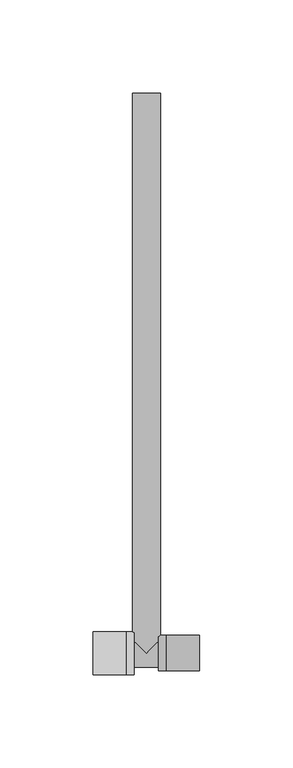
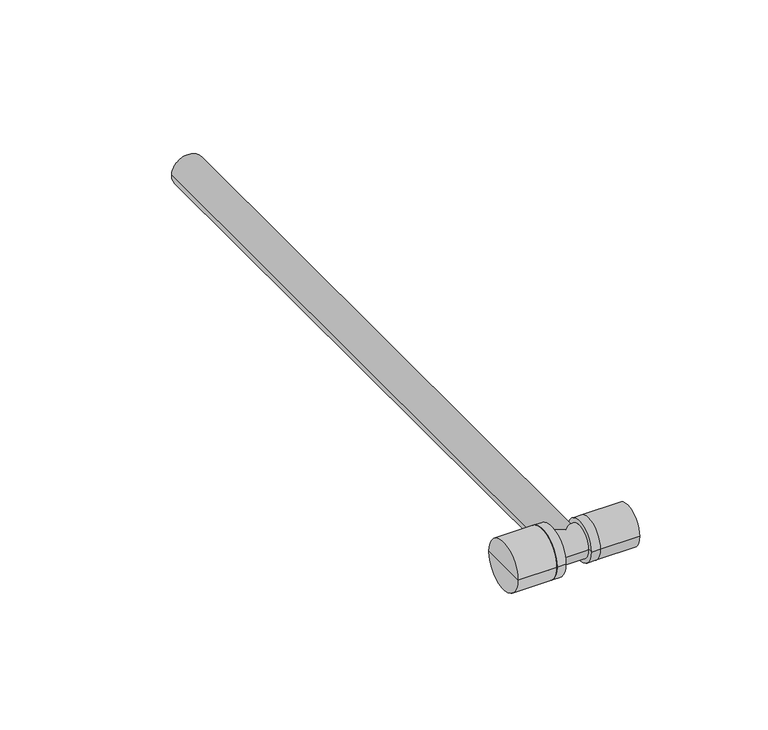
"""IFC4 building model written with IfcOpenShell, lengths in millimetres: pipe fitting geometry, KAN-therm Push 18x2 trójnik redukcyjny z rurą Cu15 L=300 : KAN-therm Push 18x2 trójnik redukcyjny z rurą Cu15 L=300."""

from ifc_helpers import new_model, si_unit, frame, origin, place, context, project, spatial, circle_curve, ellipse_curve, source, transform, mapped, element, save
from ifc_brep_helpers import plane_surface, cylinder_surface, advanced_brep


def pipe_fitting_55ffaf2d(model_context):
    return source(origin(), model_context, "Body", "AdvancedBrep", [
        advanced_brep(
        [(-10.5, -11.5, 0.0), (-10.5, 0.0, 0.0), (-10.5, 11.5, 0.0), (-6.5, -11.5, 0.0), (-6.5, 11.5, 0.0), (-6.5, 0.0, 0.0)],
        [
            (0, 1),
            (1, 2),
            (2, 0, circle_curve(frame((-10.5, 0.0, 0.0), z_axis=(-1.0, 0.0, 0.0), x_axis=(0.0, 1.0, 0.0)), 11.5)),
            (0, 2, circle_curve(frame((-10.5, 0.0, 0.0), z_axis=(-1.0, 0.0, 0.0), x_axis=(0.0, 1.0, 0.0)), 11.5)),
            (3, 0),
            (2, 4),
            (4, 3, circle_curve(frame((-6.5, 0.0, 0.0), z_axis=(-1.0, 0.0, 0.0), x_axis=(0.0, 1.0, 0.0)), 11.5)),
            (3, 4, circle_curve(frame((-6.5, 0.0, 0.0), z_axis=(-1.0, 0.0, 0.0), x_axis=(0.0, 1.0, 0.0)), 11.5)),
            (5, 3),
            (4, 5),
        ],
        [
            plane_surface(frame((-10.5, 0.0, 0.0), z_axis=(-1.0, 0.0, 0.0), x_axis=(0.0, 1.0, 0.0))),
            cylinder_surface(frame((-2005.5, 0.0, 0.0), z_axis=(1.0, 0.0, 0.0), x_axis=(0.0, 1.0, 0.0)), 11.5),
            plane_surface(frame((-6.5, 0.0, 0.0), z_axis=(1.0, 0.0, 0.0), x_axis=(0.0, 1.0, 0.0))),
        ],
        [
            (0, [[1, 2, 3]]),
            (0, [[-2, -1, 4]]),
            (1, [[5, -3, 6, 7]]),
            (1, [[-6, -4, -5, 8]]),
            (2, [[9, -7, 10]]),
            (2, [[-10, -8, -9]]),
        ],
    ),
        advanced_brep(
        [(-28.5, -11.5, 0.0), (-28.5, 0.0, 0.0), (-28.5, 11.5, 0.0), (-10.5, -11.5, 0.0), (-10.5, 11.5, 0.0), (-10.5, 0.0, 0.0)],
        [
            (0, 1),
            (1, 2),
            (2, 0, circle_curve(frame((-28.5, 0.0, 0.0), z_axis=(-1.0, 0.0, 0.0), x_axis=(0.0, 1.0, 0.0)), 11.5)),
            (0, 2, circle_curve(frame((-28.5, 0.0, 0.0), z_axis=(-1.0, 0.0, 0.0), x_axis=(0.0, 1.0, 0.0)), 11.5)),
            (3, 0),
            (2, 4),
            (4, 3, circle_curve(frame((-10.5, 0.0, 0.0), z_axis=(-1.0, 0.0, 0.0), x_axis=(0.0, 1.0, 0.0)), 11.5)),
            (3, 4, circle_curve(frame((-10.5, 0.0, 0.0), z_axis=(-1.0, 0.0, 0.0), x_axis=(0.0, 1.0, 0.0)), 11.5)),
            (5, 3),
            (4, 5),
        ],
        [
            plane_surface(frame((-28.5, 0.0, 0.0), z_axis=(-1.0, 0.0, 0.0), x_axis=(0.0, 1.0, 0.0))),
            cylinder_surface(frame((-2005.5, 0.0, 0.0), z_axis=(1.0, 0.0, 0.0), x_axis=(0.0, 1.0, 0.0)), 11.5),
            plane_surface(frame((-10.5, 0.0, 0.0), z_axis=(1.0, 0.0, 0.0), x_axis=(0.0, 1.0, 0.0))),
        ],
        [
            (0, [[1, 2, 3]]),
            (0, [[-2, -1, 4]]),
            (1, [[5, -3, 6, 7]]),
            (1, [[-6, -4, -5, 8]]),
            (2, [[9, -7, 10]]),
            (2, [[-10, -8, -9]]),
        ],
    ),
        advanced_brep(
        [(10.5, -9.5, 0.0), (10.5, 9.5, 0.0), (10.5, 0.0, 0.0), (6.5, -9.5, 0.0), (6.5, 9.5, 0.0), (6.5, 0.0, 0.0)],
        [
            (0, 1, circle_curve(frame((10.5, 0.0, 0.0), z_axis=(1.0, 0.0, 0.0), x_axis=(0.0, 1.0, 0.0)), 9.5)),
            (1, 2),
            (2, 0),
            (1, 0, circle_curve(frame((10.5, 0.0, 0.0), z_axis=(1.0, 0.0, 0.0), x_axis=(0.0, 1.0, 0.0)), 9.5)),
            (3, 4, circle_curve(frame((6.5, 0.0, 0.0), z_axis=(1.0, 0.0, 0.0), x_axis=(0.0, 1.0, 0.0)), 9.5)),
            (4, 1),
            (0, 3),
            (4, 3, circle_curve(frame((6.5, 0.0, 0.0), z_axis=(1.0, 0.0, 0.0), x_axis=(0.0, 1.0, 0.0)), 9.5)),
            (5, 4),
            (3, 5),
        ],
        [
            plane_surface(frame((10.5, 0.0, 0.0), z_axis=(1.0, 0.0, 0.0), x_axis=(0.0, 1.0, 0.0))),
            cylinder_surface(frame((2005.5, 0.0, 0.0), z_axis=(-1.0, 0.0, 0.0), x_axis=(0.0, 1.0, 0.0)), 9.5),
            plane_surface(frame((6.5, 0.0, 0.0), z_axis=(-1.0, 0.0, 0.0), x_axis=(0.0, 1.0, 0.0))),
        ],
        [
            (0, [[1, 2, 3]]),
            (0, [[4, -3, -2]]),
            (1, [[5, 6, -1, 7]]),
            (1, [[8, -7, -4, -6]]),
            (2, [[9, -5, 10]]),
            (2, [[-10, -8, -9]]),
        ],
    ),
        advanced_brep(
        [(28.5, -9.5, 0.0), (28.5, 9.5, 0.0), (28.5, 0.0, 0.0), (10.5, -9.5, 0.0), (10.5, 9.5, 0.0), (10.5, 0.0, 0.0)],
        [
            (0, 1, circle_curve(frame((28.5, 0.0, 0.0), z_axis=(1.0, 0.0, 0.0), x_axis=(0.0, 1.0, 0.0)), 9.5)),
            (1, 2),
            (2, 0),
            (1, 0, circle_curve(frame((28.5, 0.0, 0.0), z_axis=(1.0, 0.0, 0.0), x_axis=(0.0, 1.0, 0.0)), 9.5)),
            (3, 4, circle_curve(frame((10.5, 0.0, 0.0), z_axis=(1.0, 0.0, 0.0), x_axis=(0.0, 1.0, 0.0)), 9.5)),
            (4, 1),
            (0, 3),
            (4, 3, circle_curve(frame((10.5, 0.0, 0.0), z_axis=(1.0, 0.0, 0.0), x_axis=(0.0, 1.0, 0.0)), 9.5)),
            (5, 4),
            (3, 5),
        ],
        [
            plane_surface(frame((28.5, 0.0, 0.0), z_axis=(1.0, 0.0, 0.0), x_axis=(0.0, 1.0, 0.0))),
            cylinder_surface(frame((2005.5, 0.0, 0.0), z_axis=(-1.0, 0.0, 0.0), x_axis=(0.0, 1.0, 0.0)), 9.5),
            plane_surface(frame((10.5, 0.0, 0.0), z_axis=(-1.0, 0.0, 0.0), x_axis=(0.0, 1.0, 0.0))),
        ],
        [
            (0, [[1, 2, 3]]),
            (0, [[4, -3, -2]]),
            (1, [[5, 6, -1, 7]]),
            (1, [[8, -7, -4, -6]]),
            (2, [[9, -5, 10]]),
            (2, [[-10, -8, -9]]),
        ],
    ),
        advanced_brep(
        [(-7.5, 300.0, 0.0), (7.5, 300.0, 0.0), (7.5, 7.5, 0.0), (0.0, 0.0, -7.5), (-7.5, 7.5, 0.0), (0.0, 0.0, 7.5), (0.0, 300.0, 0.0), (10.5, -7.5, 0.0), (10.5, 7.5, 0.0), (10.5, 0.0, 0.0), (-10.5, 0.0, 0.0), (-10.5, 7.5, 0.0), (-10.5, -7.5, 0.0)],
        [
            (0, 1, circle_curve(frame((0.0, 300.0, 0.0), z_axis=(0.0, -1.0, 0.0), x_axis=(1.0, 0.0, 0.0)), 7.5)),
            (1, 2),
            (2, 3, ellipse_curve(frame((0.0, 0.0, 0.0), z_axis=(-0.7071067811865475, 0.7071067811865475, 0.0), x_axis=(0.7071067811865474, 0.7071067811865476, 0.0)), 10.6066017, 7.5)),
            (3, 4, ellipse_curve(frame((0.0, 0.0, 0.0), z_axis=(0.7071067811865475, 0.7071067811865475, 0.0), x_axis=(-0.7071067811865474, 0.7071067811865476, 0.0)), 10.6066017, 7.5)),
            (4, 0),
            (1, 0, circle_curve(frame((0.0, 300.0, 0.0), z_axis=(0.0, -1.0, 0.0), x_axis=(1.0, 0.0, 0.0)), 7.5)),
            (4, 5, ellipse_curve(frame((0.0, 0.0, 0.0), z_axis=(0.7071067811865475, 0.7071067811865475, 0.0), x_axis=(-0.7071067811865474, 0.7071067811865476, 0.0)), 10.6066017, 7.5)),
            (5, 2, ellipse_curve(frame((0.0, 0.0, 0.0), z_axis=(-0.7071067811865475, 0.7071067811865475, 0.0), x_axis=(0.7071067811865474, 0.7071067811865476, 0.0)), 10.6066017, 7.5)),
            (0, 6),
            (6, 1),
            (7, 8, circle_curve(frame((10.5, 0.0, 0.0), z_axis=(1.0, 0.0, 0.0), x_axis=(0.0, 1.0, 0.0)), 7.5)),
            (8, 9),
            (9, 7),
            (8, 7, circle_curve(frame((10.5, 0.0, 0.0), z_axis=(1.0, 0.0, 0.0), x_axis=(0.0, 1.0, 0.0)), 7.5)),
            (10, 11),
            (11, 12, circle_curve(frame((-10.5, 0.0, 0.0), z_axis=(-1.0, 0.0, 0.0), x_axis=(0.0, 1.0, 0.0)), 7.5)),
            (12, 10),
            (12, 11, circle_curve(frame((-10.5, 0.0, 0.0), z_axis=(-1.0, 0.0, 0.0), x_axis=(0.0, 1.0, 0.0)), 7.5)),
            (7, 12),
            (11, 4),
            (2, 8),
        ],
        [
            cylinder_surface(frame((0.0, 2000.0, 0.0), z_axis=(0.0, 1.0, 0.0), x_axis=(1.0, 0.0, 0.0)), 7.5),
            plane_surface(frame((0.0, 300.0, 0.0), z_axis=(0.0, 1.0, 0.0), x_axis=(1.0, 0.0, 0.0))),
            plane_surface(frame((10.5, 0.0, 0.0), z_axis=(1.0, 0.0, 0.0), x_axis=(0.0, 1.0, 0.0))),
            plane_surface(frame((-10.5, 0.0, 0.0), z_axis=(-1.0, 0.0, 0.0), x_axis=(0.0, 1.0, 0.0))),
            cylinder_surface(frame((2004.5, 0.0, 0.0), z_axis=(-1.0, 0.0, 0.0), x_axis=(0.0, 1.0, 0.0)), 7.5),
        ],
        [
            (0, [[1, 2, 3, 4, 5]]),
            (0, [[6, -5, 7, 8, -2]]),
            (1, [[-1, 9, 10]]),
            (1, [[-6, -10, -9]]),
            (2, [[11, 12, 13]]),
            (2, [[-12, 14, -13]]),
            (3, [[15, 16, 17]]),
            (3, [[-15, -17, 18]]),
            (4, [[-11, 19, -16, 20, -4, -3, 21]]),
            (4, [[-14, -21, -8, -7, -20, -18, -19]]),
        ],
    ),
    ])


if __name__ == "__main__":
    model = new_model("IFC4")
    model_context = context("Model", 3, world=origin())
    ifc_project = project(units=[si_unit("LENGTHUNIT", "METRE", prefix="MILLI")], contexts=[model_context])
    site = spatial("IfcSite", under=ifc_project)
    building = spatial("IfcBuilding", under=site)
    placement = place(None, origin())
    pipe_fitting_shape = pipe_fitting_55ffaf2d(model_context)
    element("IfcPipeFitting", 1, ObjectType="KAN-therm Push 18x2 trójnik redukcyjny z rurą Cu15 L=300 : KAN-therm Push 18x2 trójnik redukcyjny z rurą Cu15 L=300", at=placement, inside=building, context=model_context, shape_type="MappedRepresentation", body=[
        mapped(pipe_fitting_shape, transform((0.0, 0.0, 0.0), x_axis=(1.0, 0.0, 0.0), y_axis=(0.0, 1.0, 0.0), z_axis=(0.0, 0.0, 1.0))),
    ])
    save(model, "model.ifc")
